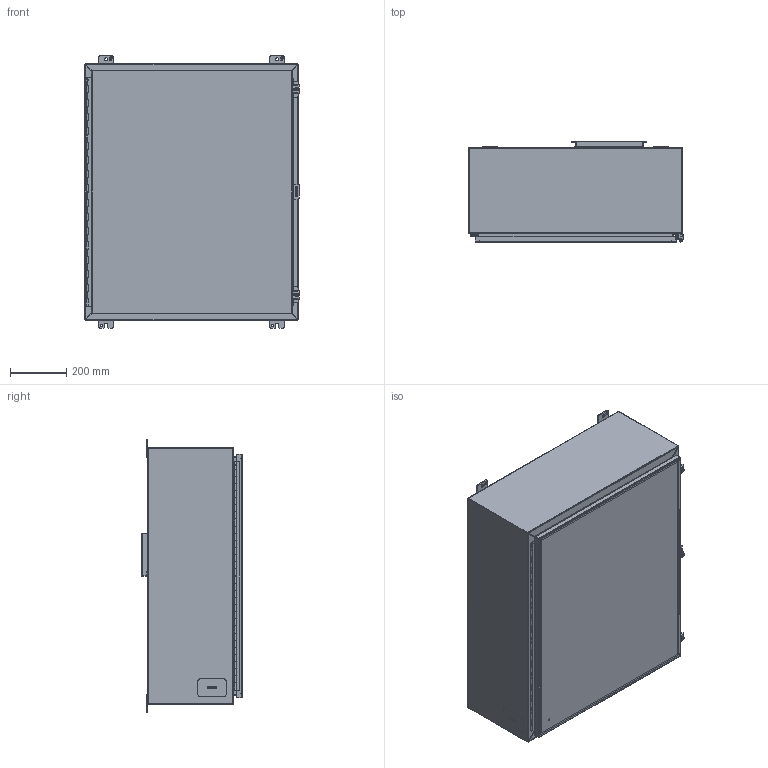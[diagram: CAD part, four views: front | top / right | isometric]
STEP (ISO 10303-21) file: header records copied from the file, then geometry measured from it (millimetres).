
FILE_DESCRIPTION(/* description */ ('Unknown'),/* implementation_level */ '2;1');
FILE_NAME(/* name */ '1418M12LP',/* time_stamp */ '2026-02-20T16:34:38-05:00',/* author */ ('Unknown'),/* organization */ ('Unknown'),/* preprocessor_version */ 'ST-DEVELOPER v18.104',/* originating_system */ 'Solid Edge',/* authorisation */ 'Unknown');
FILE_SCHEMA (('AUTOMOTIVE_DESIGN {1 0 10303 214 3 1 1}'));
Length unit declared in the file: millimetre
Products named in the file (32): 1418M12LP; KIT90256; LAB30005; NTS165305; NTS16535; STD26094; STD21878; COM42780; COM40153-1; COM71780-21; COM40153-2; HNG10620-32C; COM70219_oa_0; PNT11078; COM48461; FET07710; KIT90519; WAF25059; NTS166105; AKT90223; SPR20265; SCC19011; WAF25035; COM42667; BUL10020; QLB30109; PKT99; COM48514; HNG10620-32B; QLB20254; HNG10620-32P
Assembly tree (44 placements, depth 3):
  1418M12LP
    KIT90256
      LAB30005
      NTS165305
      NTS16535
    STD26094  x6
    STD21878
    COM42780  x2
    COM40153-1
    COM71780-21
      COM40153-2
      COM71780-21
      STD21878
      HNG10620-32C
      COM70219_oa_0
      PNT11078
    COM48461
    FET07710  x4
    KIT90519
      WAF25059
      NTS166105
    AKT90223  x2
      SPR20265
      SCC19011
      WAF25035
      COM42667
    BUL10020
    QLB30109
    PKT99
    COM48514  x2
    PNT11078
    HNG10620-32B
    QLB20254
    HNG10620-32P
Bounding box: 765.17 x 358.77 x 971.55 mm (x, y, z)
Volume: 5203902.9 mm3; surface area: 5638204.9 mm2
Topology: 39 solids, 40 shells, 1354 faces, 3489 edges, 2266 vertices
Faces by surface type: plane 886, cylinder 336, bspline 76, cone 28, torus 26, sphere 2
Full cylindrical faces by diameter (mm): 3.175 x1, 4.763 x1, 4.976 x1, 5.41 x2, 6.198 x2, 6.35 x3, 6.731 x2, 7.137 x2, 7.805 x1, 7.938 x4, 8.382 x6, 9.525 x6, 9.906 x2, 11.113 x4, 11.303 x1, 12.7 x2, 16.51 x6, 25.4 x1, 88.9 x1
Entity records: 34384 total; most frequent: CARTESIAN_POINT 9936, ORIENTED_EDGE 4986, DIRECTION 4540, EDGE_CURVE 2493, VERTEX_POINT 1637, LINE 1622, VECTOR 1622, AXIS2_PLACEMENT_3D 1459
